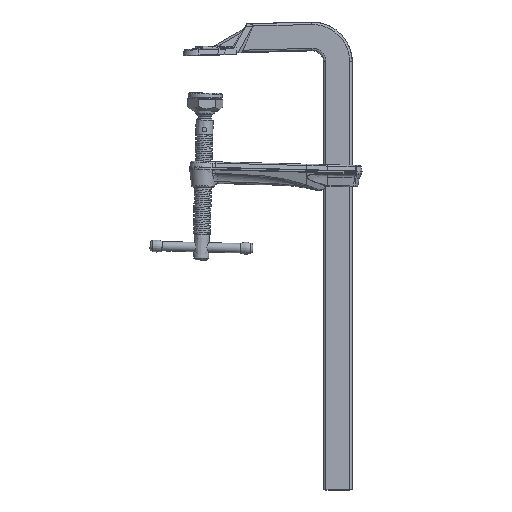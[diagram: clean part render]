
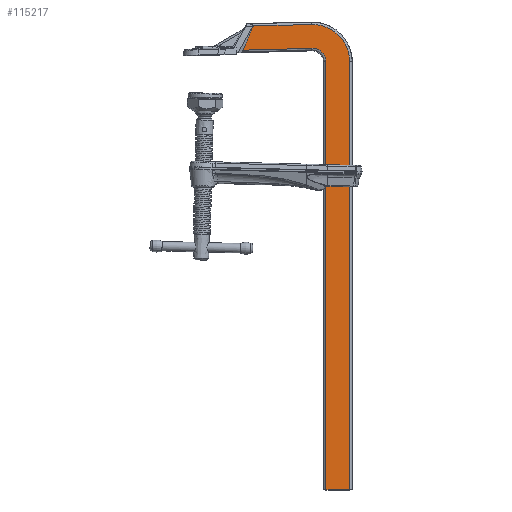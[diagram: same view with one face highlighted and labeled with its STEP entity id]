
A CAD part, front view. The second image highlights one B-rep face of the part: STEP entity #115217.
In plain terms, the highlighted free-form (B-spline) face has degree [1, 1] with [2, 2] control points.
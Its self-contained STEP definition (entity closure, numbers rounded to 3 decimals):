
#114976=CARTESIAN_POINT('',(-72.746,-6.294,9.385));
#114977=VERTEX_POINT('',#114976);
#114987=CARTESIAN_POINT('',(8.439,-6.294,11.511));
#114988=VERTEX_POINT('',#114987);
#114989=CARTESIAN_POINT('',(-72.746,-6.294,9.385));
#114990=CARTESIAN_POINT('',(8.439,-6.294,11.511));
#114991=B_SPLINE_CURVE_WITH_KNOTS('',1,(#114989,#114990),.POLYLINE_FORM.,.F.,.U.,(2,2),(0.234,0.864),.UNSPECIFIED.);
#114992=EDGE_CURVE('',#114977,#114988,#114991,.T.);
#115150=CARTESIAN_POINT('',(272.955,-6.294,-593.324));
#115151=CARTESIAN_POINT('',(-260.884,-6.294,-607.303));
#115152=CARTESIAN_POINT('',(255.049,-6.294,90.463));
#115153=CARTESIAN_POINT('',(-278.79,-6.294,76.484));
#115154=B_SPLINE_SURFACE_WITH_KNOTS('',1,1,((#115150,#115151),(#115152,#115153)),.PLANE_SURF.,.F.,.F.,.U.,(2,2),(2,2),(-0.281,1.),(0.,1.),.UNSPECIFIED.);
#115155=CARTESIAN_POINT('',(-60.681,-6.294,37.579));
#115156=VERTEX_POINT('',#115155);
#115157=CARTESIAN_POINT('',(-68.764,-6.294,16.719));
#115158=VERTEX_POINT('',#115157);
#115159=CARTESIAN_POINT('',(-60.681,-6.294,37.579));
#115160=CARTESIAN_POINT('',(-64.722,-6.294,27.149));
#115161=CARTESIAN_POINT('',(-68.764,-6.294,16.719));
#115162=B_SPLINE_CURVE_WITH_KNOTS('',2,(#115159,#115160,#115161),.UNSPECIFIED.,.F.,.U.,(3,3),(0.,0.995),.UNSPECIFIED.);
#115163=EDGE_CURVE('',#115156,#115158,#115162,.T.);
#115164=ORIENTED_EDGE('',*,*,#115163,.T.);
#115165=CARTESIAN_POINT('',(-68.764,-6.294,16.719));
#115166=CARTESIAN_POINT('',(-72.746,-6.294,9.385));
#115167=B_SPLINE_CURVE_WITH_KNOTS('',1,(#115165,#115166),.POLYLINE_FORM.,.F.,.U.,(2,2),(0.241,0.326),.UNSPECIFIED.);
#115168=EDGE_CURVE('',#115158,#114977,#115167,.T.);
#115169=ORIENTED_EDGE('',*,*,#115168,.T.);
#115170=ORIENTED_EDGE('',*,*,#114992,.T.);
#115171=CARTESIAN_POINT('',(24.795,-6.294,-4.422));
#115172=VERTEX_POINT('',#115171);
#115173=CARTESIAN_POINT('',(8.439,-6.294,11.511));
#115174=CARTESIAN_POINT('',(24.795,-6.294,11.939));
#115175=CARTESIAN_POINT('',(24.795,-6.294,-4.422));
#115176=(BOUNDED_CURVE()B_SPLINE_CURVE(2,(#115173,#115174,#115175),.CIRCULAR_ARC.,.F.,.U.)B_SPLINE_CURVE_WITH_KNOTS((3,3),(0.,1.),.UNSPECIFIED.)CURVE()GEOMETRIC_REPRESENTATION_ITEM()RATIONAL_B_SPLINE_CURVE((1.,0.698,1.))REPRESENTATION_ITEM(''));
#115177=EDGE_CURVE('',#114988,#115172,#115176,.T.);
#115178=ORIENTED_EDGE('',*,*,#115177,.T.);
#115179=CARTESIAN_POINT('',(24.795,-6.294,-504.422));
#115180=VERTEX_POINT('',#115179);
#115181=CARTESIAN_POINT('',(24.795,-6.294,-4.422));
#115182=CARTESIAN_POINT('',(24.795,-6.294,-504.422));
#115183=B_SPLINE_CURVE_WITH_KNOTS('',1,(#115181,#115182),.POLYLINE_FORM.,.F.,.U.,(2,2),(0.,1.),.UNSPECIFIED.);
#115184=EDGE_CURVE('',#115172,#115180,#115183,.T.);
#115185=ORIENTED_EDGE('',*,*,#115184,.T.);
#115186=CARTESIAN_POINT('',(52.663,-6.294,-504.422));
#115187=VERTEX_POINT('',#115186);
#115188=CARTESIAN_POINT('',(24.795,-6.294,-504.422));
#115189=CARTESIAN_POINT('',(52.663,-6.294,-504.422));
#115190=B_SPLINE_CURVE_WITH_KNOTS('',1,(#115188,#115189),.POLYLINE_FORM.,.F.,.U.,(2,2),(0.,1.),.UNSPECIFIED.);
#115191=EDGE_CURVE('',#115180,#115187,#115190,.T.);
#115192=ORIENTED_EDGE('',*,*,#115191,.T.);
#115193=CARTESIAN_POINT('',(52.663,-6.294,-4.422));
#115194=VERTEX_POINT('',#115193);
#115195=CARTESIAN_POINT('',(52.663,-6.294,-504.422));
#115196=CARTESIAN_POINT('',(52.663,-6.294,-4.422));
#115197=B_SPLINE_CURVE_WITH_KNOTS('',1,(#115195,#115196),.POLYLINE_FORM.,.F.,.U.,(2,2),(0.,1.),.UNSPECIFIED.);
#115198=EDGE_CURVE('',#115187,#115194,#115197,.T.);
#115199=ORIENTED_EDGE('',*,*,#115198,.T.);
#115200=CARTESIAN_POINT('',(7.71,-6.294,39.369));
#115201=VERTEX_POINT('',#115200);
#115202=CARTESIAN_POINT('',(52.663,-6.294,-4.422));
#115203=CARTESIAN_POINT('',(52.663,-6.294,14.06));
#115204=CARTESIAN_POINT('',(39.424,-6.294,26.957));
#115205=CARTESIAN_POINT('',(26.186,-6.294,39.853));
#115206=CARTESIAN_POINT('',(7.71,-6.294,39.369));
#115207=(BOUNDED_CURVE()B_SPLINE_CURVE(2,(#115202,#115203,#115204,#115205,#115206),.CIRCULAR_ARC.,.F.,.U.)B_SPLINE_CURVE_WITH_KNOTS((3,2,3),(0.,0.5,1.),.UNSPECIFIED.)CURVE()GEOMETRIC_REPRESENTATION_ITEM()RATIONAL_B_SPLINE_CURVE((1.,0.921,1.,0.921,1.))REPRESENTATION_ITEM(''));
#115208=EDGE_CURVE('',#115194,#115201,#115207,.T.);
#115209=ORIENTED_EDGE('',*,*,#115208,.T.);
#115210=CARTESIAN_POINT('',(7.71,-6.294,39.369));
#115211=CARTESIAN_POINT('',(-60.681,-6.294,37.579));
#115212=B_SPLINE_CURVE_WITH_KNOTS('',1,(#115210,#115211),.POLYLINE_FORM.,.F.,.U.,(2,2),(0.466,0.594),.UNSPECIFIED.);
#115213=EDGE_CURVE('',#115201,#115156,#115212,.T.);
#115214=ORIENTED_EDGE('',*,*,#115213,.T.);
#115215=EDGE_LOOP('',(#115164,#115169,#115170,#115178,#115185,#115192,#115199,#115209,#115214));
#115216=FACE_OUTER_BOUND('',#115215,.T.);
#115217=ADVANCED_FACE('',(#115216),#115154,.T.);
